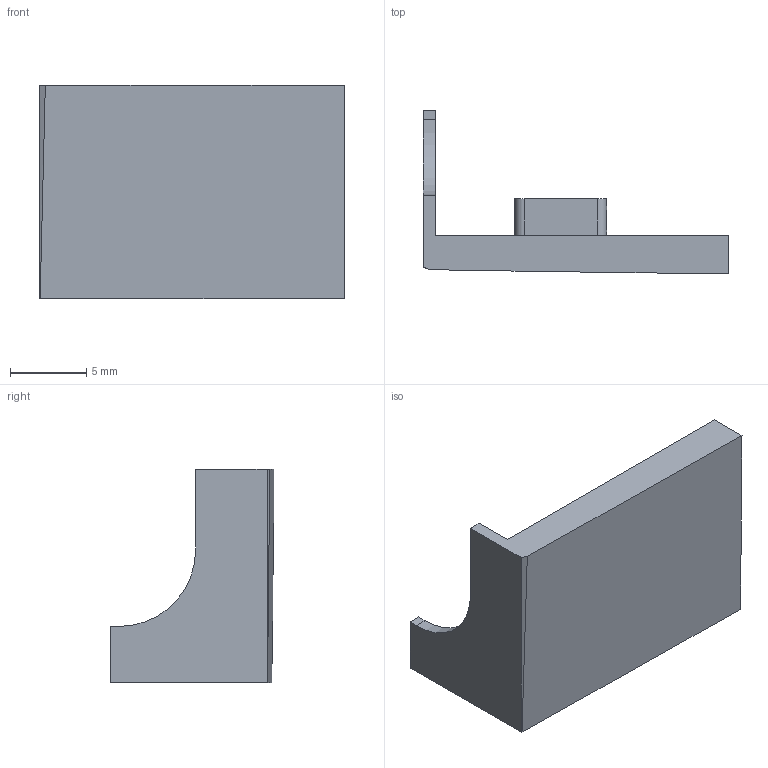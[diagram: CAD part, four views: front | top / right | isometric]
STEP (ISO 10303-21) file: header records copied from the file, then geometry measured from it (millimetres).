
FILE_DESCRIPTION(('Open CASCADE Model'),'2;1');
FILE_NAME('Open CASCADE Shape Model','2026-09-06T11:49:07',('Author'),( 'Open CASCADE'),'Open CASCADE STEP processor 7.8','build123d', 'Unknown');
FILE_SCHEMA(('AUTOMOTIVE_DESIGN { 1 0 10303 214 1 1 1 1 }'));
Length unit declared in the file: millimetre
Products named in the file (2): =>[0:1:1:2]; SOLID
Assembly tree (1 placements, depth 2):
  =>[0:1:1:2]
    SOLID
Bounding box: 20 x 10.73 x 14 mm (x, y, z)
Volume: 743.2 mm3; surface area: 960.7 mm2
Topology: 1 solids, 1 shells, 30 faces, 78 edges, 52 vertices
Faces by surface type: plane 21, cylinder 7, bspline 1, sphere 1
Full cylindrical faces by diameter (mm): 2.2 x2
Entity records: 2105 total; most frequent: CARTESIAN_POINT 565, DIRECTION 265, ORIENTED_EDGE 156, PCURVE 156, DEFINITIONAL_REPRESENTATION 156, LINE 143, VECTOR 143, EDGE_CURVE 78
